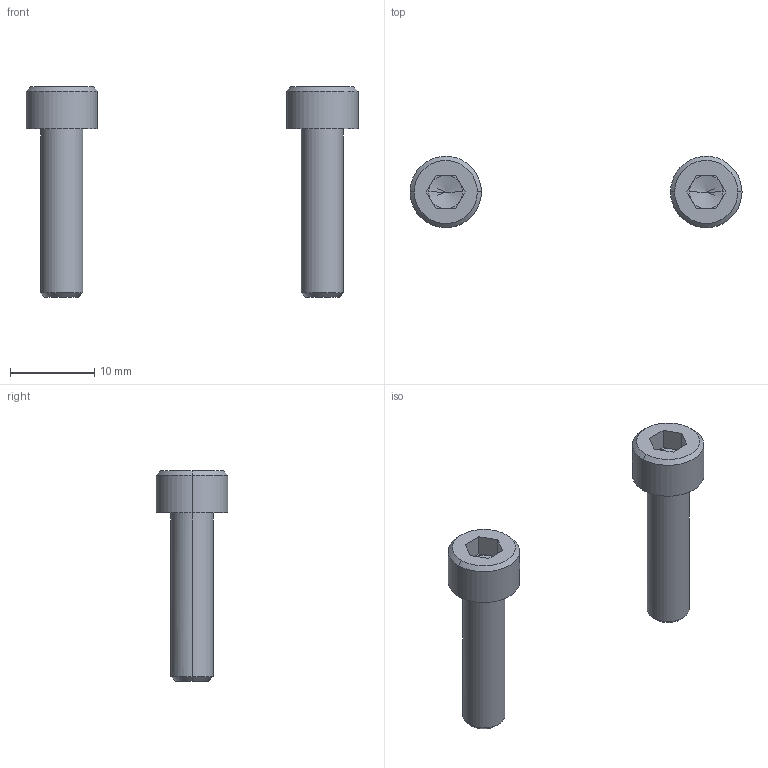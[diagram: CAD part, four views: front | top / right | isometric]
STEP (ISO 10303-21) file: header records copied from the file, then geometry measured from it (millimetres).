
FILE_DESCRIPTION(/* description */ (''),/* implementation_level */ '2;1');
FILE_NAME(/* name */ '10.optics-laser#10.3#CB5-20',/* time_stamp */ '2014-12-01T20:19:09+01:00',/* author */ (''),/* organization */ (''),/* preprocessor_version */ 'ST-DEVELOPER v14',/* originating_system */ '',/* authorisation */ '');
FILE_SCHEMA (('AUTOMOTIVE_DESIGN'));
Length unit declared in the file: millimetre
Products named in the file (2): Document; screw DIN912-like, M5x20
Assembly tree (2 placements, depth 2):
  Document
    screw DIN912-like, M5x20  x2
Bounding box: 39.5 x 8.49 x 25 mm (x, y, z)
Volume: 1273.3 mm3; surface area: 1167.4 mm2
Topology: 2 solids, 2 shells, 50 faces, 112 edges, 66 vertices
Faces by surface type: plane 30, bspline 20
Entity records: 1413 total; most frequent: CARTESIAN_POINT 633, B_SPLINE_CURVE_WITH_KNOTS 126, ORIENTED_EDGE 108, PCURVE 108, DEFINITIONAL_REPRESENTATION 108, SURFACE_CURVE 54, EDGE_CURVE 54, VERTEX_POINT 33
